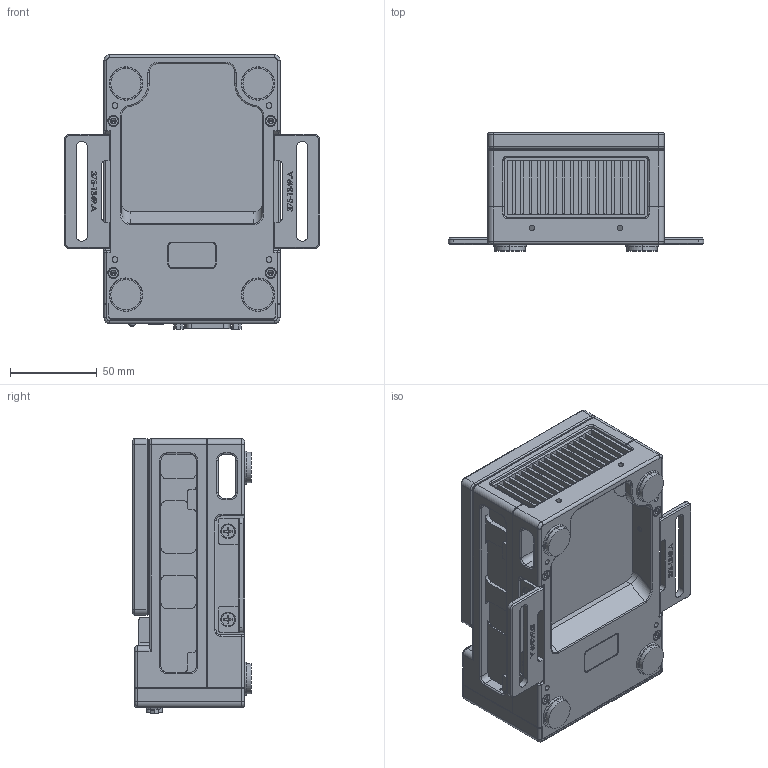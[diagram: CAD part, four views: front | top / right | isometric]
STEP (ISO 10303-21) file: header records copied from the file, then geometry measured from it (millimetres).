
FILE_DESCRIPTION (( 'STEP AP214' ), '1' );
FILE_NAME ('Step 6 - 285 TLA.STEP', '2020-01-21T05:22:25', ( '' ), ( '' ), 'SwSTEP 2.0', 'SolidWorks 2018', '' );
FILE_SCHEMA (( 'AUTOMOTIVE_DESIGN' ));
Length unit declared in the file: inch
Products named in the file (1): Step 6 - 285 TLA
Bounding box: 147.32 x 68.07 x 158.18 mm (x, y, z)
Volume: 776144.8 mm3; surface area: 134526.6 mm2
Topology: 7 solids, 8 shells, 3439 faces, 9048 edges, 5802 vertices
Faces by surface type: plane 1708, bspline 680, cylinder 670, cone 291, torus 90
Entity records: 168522 total; most frequent: CARTESIAN_POINT 58769, ORIENTED_EDGE 17824, DIRECTION 14452, EDGE_CURVE 8912, VERTEX_POINT 5802, LINE 5546, VECTOR 5546, AXIS2_PLACEMENT_3D 4453
